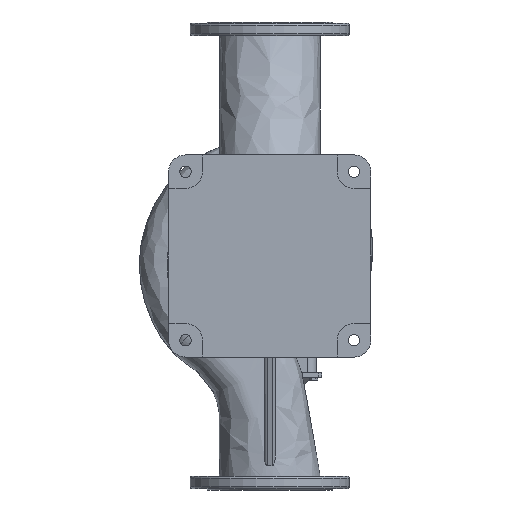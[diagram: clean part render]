
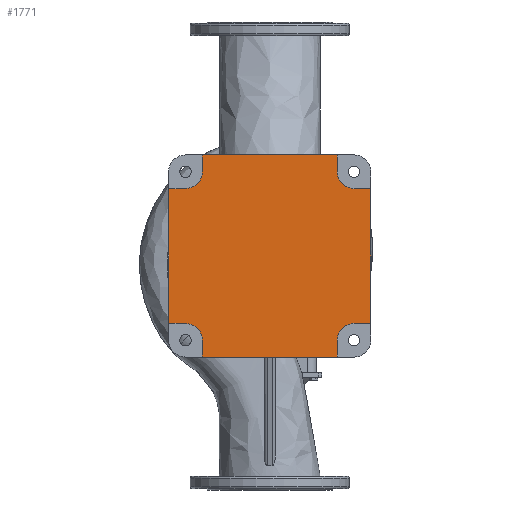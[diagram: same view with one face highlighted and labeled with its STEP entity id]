
A CAD part, front view. The second image highlights one B-rep face of the part: STEP entity #1771.
In plain terms, the highlighted planar face has unit normal (0, -1, 0).
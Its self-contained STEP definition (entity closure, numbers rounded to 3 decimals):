
#1025=PLANE('',#25625);
#1771=ADVANCED_FACE('',(#3691),#1025,.F.);
#3691=FACE_OUTER_BOUND('',#5145,.T.);
#5145=EDGE_LOOP('',(#11928,#11929,#11930,#11931,#11932,#11933,#11934,#11935,
#11936,#11937,#11938,#11939,#11940,#11941,#11942,#11943));
#6778=LINE('',#42791,#8128);
#6785=LINE('',#42804,#8135);
#6790=LINE('',#42813,#8140);
#6795=LINE('',#42823,#8145);
#6803=LINE('',#42844,#8153);
#6804=LINE('',#42846,#8154);
#6807=LINE('',#42854,#8157);
#6808=LINE('',#42856,#8158);
#6811=LINE('',#42864,#8161);
#6812=LINE('',#42866,#8162);
#6815=LINE('',#42874,#8165);
#6816=LINE('',#42876,#8166);
#8128=VECTOR('',#29102,1.);
#8135=VECTOR('',#29113,1.);
#8140=VECTOR('',#29122,1.);
#8145=VECTOR('',#29131,1.);
#8153=VECTOR('',#29153,1.);
#8154=VECTOR('',#29156,1.);
#8157=VECTOR('',#29165,1.);
#8158=VECTOR('',#29168,1.);
#8161=VECTOR('',#29177,1.);
#8162=VECTOR('',#29180,1.);
#8165=VECTOR('',#29189,1.);
#8166=VECTOR('',#29192,1.);
#9555=CIRCLE('',#25609,36.);
#9556=CIRCLE('',#25613,36.);
#9557=CIRCLE('',#25617,36.);
#9558=CIRCLE('',#25621,36.);
#11928=ORIENTED_EDGE('',*,*,#21120,.T.);
#11929=ORIENTED_EDGE('',*,*,#21138,.T.);
#11930=ORIENTED_EDGE('',*,*,#21094,.T.);
#11931=ORIENTED_EDGE('',*,*,#21137,.T.);
#11932=ORIENTED_EDGE('',*,*,#21135,.T.);
#11933=ORIENTED_EDGE('',*,*,#21133,.T.);
#11934=ORIENTED_EDGE('',*,*,#21101,.T.);
#11935=ORIENTED_EDGE('',*,*,#21132,.T.);
#11936=ORIENTED_EDGE('',*,*,#21130,.T.);
#11937=ORIENTED_EDGE('',*,*,#21128,.T.);
#11938=ORIENTED_EDGE('',*,*,#21106,.T.);
#11939=ORIENTED_EDGE('',*,*,#21127,.T.);
#11940=ORIENTED_EDGE('',*,*,#21125,.T.);
#11941=ORIENTED_EDGE('',*,*,#21123,.T.);
#11942=ORIENTED_EDGE('',*,*,#21111,.T.);
#11943=ORIENTED_EDGE('',*,*,#21122,.T.);
#18535=VERTEX_POINT('',#42790);
#18536=VERTEX_POINT('',#42792);
#18539=VERTEX_POINT('',#42803);
#18540=VERTEX_POINT('',#42805);
#18541=VERTEX_POINT('',#42812);
#18542=VERTEX_POINT('',#42814);
#18543=VERTEX_POINT('',#42821);
#18545=VERTEX_POINT('',#42824);
#18549=VERTEX_POINT('',#42839);
#18550=VERTEX_POINT('',#42841);
#18551=VERTEX_POINT('',#42847);
#18552=VERTEX_POINT('',#42851);
#18553=VERTEX_POINT('',#42857);
#18554=VERTEX_POINT('',#42861);
#18555=VERTEX_POINT('',#42867);
#18556=VERTEX_POINT('',#42871);
#21094=EDGE_CURVE('',#18536,#18535,#6778,.T.);
#21101=EDGE_CURVE('',#18540,#18539,#6785,.T.);
#21106=EDGE_CURVE('',#18542,#18541,#6790,.T.);
#21111=EDGE_CURVE('',#18545,#18543,#6795,.T.);
#21120=EDGE_CURVE('',#18550,#18549,#9555,.T.);
#21122=EDGE_CURVE('',#18543,#18550,#6803,.T.);
#21123=EDGE_CURVE('',#18551,#18545,#6804,.T.);
#21125=EDGE_CURVE('',#18552,#18551,#9556,.T.);
#21127=EDGE_CURVE('',#18541,#18552,#6807,.T.);
#21128=EDGE_CURVE('',#18553,#18542,#6808,.T.);
#21130=EDGE_CURVE('',#18554,#18553,#9557,.T.);
#21132=EDGE_CURVE('',#18539,#18554,#6811,.T.);
#21133=EDGE_CURVE('',#18555,#18540,#6812,.T.);
#21135=EDGE_CURVE('',#18556,#18555,#9558,.T.);
#21137=EDGE_CURVE('',#18535,#18556,#6815,.T.);
#21138=EDGE_CURVE('',#18549,#18536,#6816,.T.);
#25609=AXIS2_PLACEMENT_3D('',#42840,#29148,#29149);
#25613=AXIS2_PLACEMENT_3D('',#42850,#29160,#29161);
#25617=AXIS2_PLACEMENT_3D('',#42860,#29172,#29173);
#25621=AXIS2_PLACEMENT_3D('',#42870,#29184,#29185);
#25625=AXIS2_PLACEMENT_3D('',#42878,#29195,#29196);
#29102=DIRECTION('',(1.,0.,0.));
#29113=DIRECTION('',(0.,0.,1.));
#29122=DIRECTION('',(-1.,0.,0.));
#29131=DIRECTION('',(0.,0.,-1.));
#29148=DIRECTION('',(0.,1.,0.));
#29149=DIRECTION('',(0.,0.,1.));
#29153=DIRECTION('',(1.,0.,0.));
#29156=DIRECTION('',(-1.,0.,0.));
#29160=DIRECTION('',(0.,1.,0.));
#29161=DIRECTION('',(0.,0.,1.));
#29165=DIRECTION('',(0.,0.,-1.));
#29168=DIRECTION('',(0.,0.,1.));
#29172=DIRECTION('',(0.,1.,0.));
#29173=DIRECTION('',(0.,0.,1.));
#29177=DIRECTION('',(-1.,0.,0.));
#29180=DIRECTION('',(1.,0.,0.));
#29184=DIRECTION('',(0.,1.,0.));
#29185=DIRECTION('',(0.,0.,1.));
#29189=DIRECTION('',(0.,0.,1.));
#29192=DIRECTION('',(0.,0.,-1.));
#29195=DIRECTION('',(0.,1.,0.));
#29196=DIRECTION('',(0.,0.,-1.));
#42790=CARTESIAN_POINT('',(144.,-265.,-216.));
#42791=CARTESIAN_POINT('',(144.,-265.,-216.));
#42792=CARTESIAN_POINT('',(-144.,-265.,-216.));
#42803=CARTESIAN_POINT('',(216.,-265.,144.));
#42804=CARTESIAN_POINT('',(216.,-265.,144.));
#42805=CARTESIAN_POINT('',(216.,-265.,-144.));
#42812=CARTESIAN_POINT('',(-144.,-265.,216.));
#42813=CARTESIAN_POINT('',(-144.,-265.,216.));
#42814=CARTESIAN_POINT('',(144.,-265.,216.));
#42821=CARTESIAN_POINT('',(-216.,-265.,-144.));
#42823=CARTESIAN_POINT('',(-216.,-265.,-144.));
#42824=CARTESIAN_POINT('',(-216.,-265.,144.));
#42839=CARTESIAN_POINT('',(-144.,-265.,-180.));
#42840=CARTESIAN_POINT('',(-180.,-265.,-180.));
#42841=CARTESIAN_POINT('',(-180.,-265.,-144.));
#42844=CARTESIAN_POINT('',(-180.,-265.,-144.));
#42846=CARTESIAN_POINT('',(-180.,-265.,144.));
#42847=CARTESIAN_POINT('',(-180.,-265.,144.));
#42850=CARTESIAN_POINT('',(-180.,-265.,180.));
#42851=CARTESIAN_POINT('',(-144.,-265.,180.));
#42854=CARTESIAN_POINT('',(-144.,-265.,180.));
#42856=CARTESIAN_POINT('',(144.,-265.,180.));
#42857=CARTESIAN_POINT('',(144.,-265.,180.));
#42860=CARTESIAN_POINT('',(180.,-265.,180.));
#42861=CARTESIAN_POINT('',(180.,-265.,144.));
#42864=CARTESIAN_POINT('',(180.,-265.,144.));
#42866=CARTESIAN_POINT('',(180.,-265.,-144.));
#42867=CARTESIAN_POINT('',(180.,-265.,-144.));
#42870=CARTESIAN_POINT('',(180.,-265.,-180.));
#42871=CARTESIAN_POINT('',(144.,-265.,-180.));
#42874=CARTESIAN_POINT('',(144.,-265.,-180.));
#42876=CARTESIAN_POINT('',(-144.,-265.,-180.));
#42878=CARTESIAN_POINT('',(-180.,-265.,-180.));
